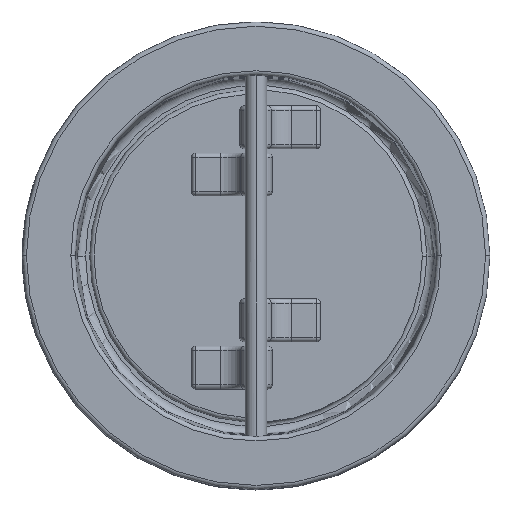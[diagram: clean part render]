
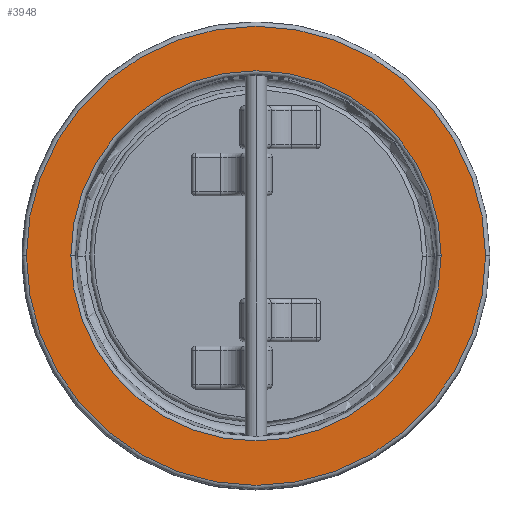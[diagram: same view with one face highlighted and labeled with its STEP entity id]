
A CAD part, top view. The second image highlights one B-rep face of the part: STEP entity #3948.
In plain terms, the highlighted planar face has unit normal (0, 0, 1).
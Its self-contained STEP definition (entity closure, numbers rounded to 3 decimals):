
#457 = EDGE_CURVE ( 'NONE', #3508, #4245, #745, .T. ) ;
#576 = VERTEX_POINT ( 'NONE', #12377 ) ;
#745 = CIRCLE ( 'NONE', #4899, 107. ) ;
#1339 = EDGE_CURVE ( 'NONE', #4245, #3508, #9298, .T. ) ;
#2063 = DIRECTION ( 'NONE',  ( 1., 0., 0. ) ) ;
#2156 = ORIENTED_EDGE ( 'NONE', *, *, #10901, .T. ) ;
#3214 = AXIS2_PLACEMENT_3D ( 'NONE', #4366, #3473, #8685 ) ;
#3473 = DIRECTION ( 'NONE',  ( 0., 0., -1. ) ) ;
#3508 = VERTEX_POINT ( 'NONE', #9781 ) ;
#3845 = DIRECTION ( 'NONE',  ( 0., 0., 1. ) ) ;
#3948 = ADVANCED_FACE ( 'NONE', ( #9263, #12322 ), #5012, .T. ) ;
#4030 = DIRECTION ( 'NONE',  ( 0., 0., 1. ) ) ;
#4245 = VERTEX_POINT ( 'NONE', #11080 ) ;
#4366 = CARTESIAN_POINT ( 'NONE',  ( 0., 0., 38. ) ) ;
#4899 = AXIS2_PLACEMENT_3D ( 'NONE', #11560, #4030, #2063 ) ;
#5012 = PLANE ( 'NONE',  #13136 ) ;
#5137 = DIRECTION ( 'NONE',  ( 1., 0., 0. ) ) ;
#5234 = CARTESIAN_POINT ( 'NONE',  ( -86.276, 0., 38. ) ) ;
#5813 = ORIENTED_EDGE ( 'NONE', *, *, #457, .T. ) ;
#6011 = AXIS2_PLACEMENT_3D ( 'NONE', #7193, #9452, #5137 ) ;
#6169 = EDGE_LOOP ( 'NONE', ( #12559, #2156 ) ) ;
#6201 = EDGE_LOOP ( 'NONE', ( #10994, #5813 ) ) ;
#6348 = CARTESIAN_POINT ( 'NONE',  ( 0., 0., 38. ) ) ;
#7193 = CARTESIAN_POINT ( 'NONE',  ( 0., 0., 38. ) ) ;
#8186 = VERTEX_POINT ( 'NONE', #5234 ) ;
#8230 = CIRCLE ( 'NONE', #3214, 86.276 ) ;
#8685 = DIRECTION ( 'NONE',  ( 1., 0., 0. ) ) ;
#9263 = FACE_BOUND ( 'NONE', #6169, .T. ) ;
#9298 = CIRCLE ( 'NONE', #6011, 107. ) ;
#9452 = DIRECTION ( 'NONE',  ( 0., 0., 1. ) ) ;
#9781 = CARTESIAN_POINT ( 'NONE',  ( -107., 0., 38. ) ) ;
#10245 = DIRECTION ( 'NONE',  ( 0., 0., -1. ) ) ;
#10901 = EDGE_CURVE ( 'NONE', #8186, #576, #8230, .T. ) ;
#10994 = ORIENTED_EDGE ( 'NONE', *, *, #1339, .T. ) ;
#11064 = EDGE_CURVE ( 'NONE', #576, #8186, #11738, .T. ) ;
#11080 = CARTESIAN_POINT ( 'NONE',  ( 107., 0., 38. ) ) ;
#11302 = DIRECTION ( 'NONE',  ( 1., 0., 0. ) ) ;
#11560 = CARTESIAN_POINT ( 'NONE',  ( 0., 0., 38. ) ) ;
#11738 = CIRCLE ( 'NONE', #13261, 86.276 ) ;
#12322 = FACE_OUTER_BOUND ( 'NONE', #6201, .T. ) ;
#12377 = CARTESIAN_POINT ( 'NONE',  ( 86.276, 0., 38. ) ) ;
#12559 = ORIENTED_EDGE ( 'NONE', *, *, #11064, .T. ) ;
#13136 = AXIS2_PLACEMENT_3D ( 'NONE', #13355, #3845, #11302 ) ;
#13261 = AXIS2_PLACEMENT_3D ( 'NONE', #6348, #10245, #13529 ) ;
#13355 = CARTESIAN_POINT ( 'NONE',  ( 0., 0., 38. ) ) ;
#13529 = DIRECTION ( 'NONE',  ( 1., 0., 0. ) ) ;
